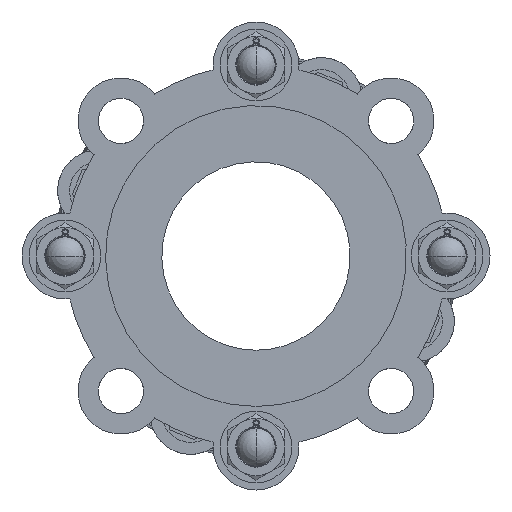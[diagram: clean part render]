
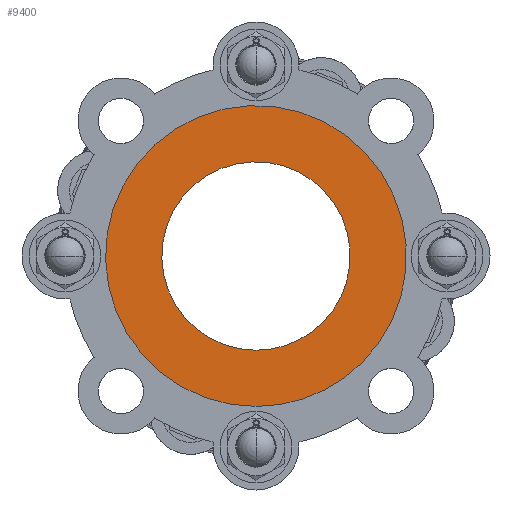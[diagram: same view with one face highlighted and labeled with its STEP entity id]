
A CAD part, front view. The second image highlights one B-rep face of the part: STEP entity #9400.
In plain terms, the highlighted planar face has unit normal (0, -1, 0) as drawn and (0, 1, 0) by its records, which use the part's own axes.
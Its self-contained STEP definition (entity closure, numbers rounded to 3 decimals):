
#7804=CARTESIAN_POINT('',(0.,0.,0.));
#7805=DIRECTION('',(0.,1.,0.));
#7806=DIRECTION('',(-0.707,0.,-0.707));
#7807=AXIS2_PLACEMENT_3D('',#7804,#7805,#7806);
#7822=CARTESIAN_POINT('',(0.,0.,0.));
#7823=DIRECTION('',(0.,-1.,0.));
#7824=DIRECTION('',(-0.707,0.,-0.707));
#7825=AXIS2_PLACEMENT_3D('',#7822,#7823,#7824);
#7827=CARTESIAN_POINT('',(0.,0.,0.));
#7828=DIRECTION('',(0.,-1.,0.));
#7829=DIRECTION('',(0.,0.,-1.));
#7830=AXIS2_PLACEMENT_3D('',#7827,#7828,#7829);
#7840=CARTESIAN_POINT('',(0.,0.,0.));
#7841=DIRECTION('',(0.,-1.,0.));
#7842=DIRECTION('',(-0.707,0.,-0.707));
#7843=AXIS2_PLACEMENT_3D('',#7840,#7841,#7842);
#8239=CARTESIAN_POINT('',(0.,0.,-39.45));
#8241=VERTEX_POINT('',#8239);
#8243=CARTESIAN_POINT('',(-27.895,0.,-27.895));
#8245=VERTEX_POINT('',#8243);
#8247=CARTESIAN_POINT('',(0.,0.,-63.));
#8249=VERTEX_POINT('',#8247);
#8251=CARTESIAN_POINT('',(-44.548,0.,-44.548));
#8253=VERTEX_POINT('',#8251);
#9385=CARTESIAN_POINT('',(0.,0.,0.));
#9386=DIRECTION('',(0.,-1.,0.));
#9387=DIRECTION('',(0.,0.,1.));
#9388=AXIS2_PLACEMENT_3D('',#9385,#9386,#9387);
#9389=PLANE('',#9388);
#9390=ORIENTED_EDGE('',*,*,#9367,.F.);
#9391=ORIENTED_EDGE('',*,*,#9378,.T.);
#9392=EDGE_LOOP('',(#9390,#9391));
#9393=FACE_OUTER_BOUND('',#9392,.F.);
#9395=ORIENTED_EDGE('',*,*,#9394,.F.);
#9397=ORIENTED_EDGE('',*,*,#9396,.F.);
#9398=EDGE_LOOP('',(#9395,#9397));
#9399=FACE_BOUND('',#9398,.F.);
#9400=ADVANCED_FACE('',(#9393,#9399),#9389,.F.);
#7808=CIRCLE('',#7807,63.);
#7826=CIRCLE('',#7825,63.);
#7831=CIRCLE('',#7830,39.45);
#7844=CIRCLE('',#7843,39.45);
#9367=EDGE_CURVE('',#8253,#8249,#7808,.T.);
#9378=EDGE_CURVE('',#8253,#8249,#7826,.T.);
#9394=EDGE_CURVE('',#8241,#8245,#7831,.T.);
#9396=EDGE_CURVE('',#8245,#8241,#7844,.T.);
